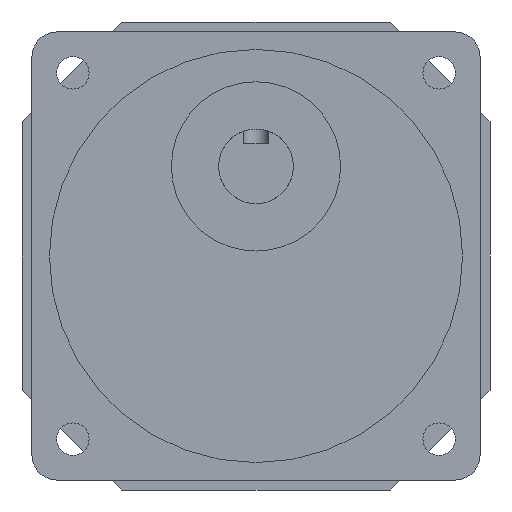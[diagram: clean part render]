
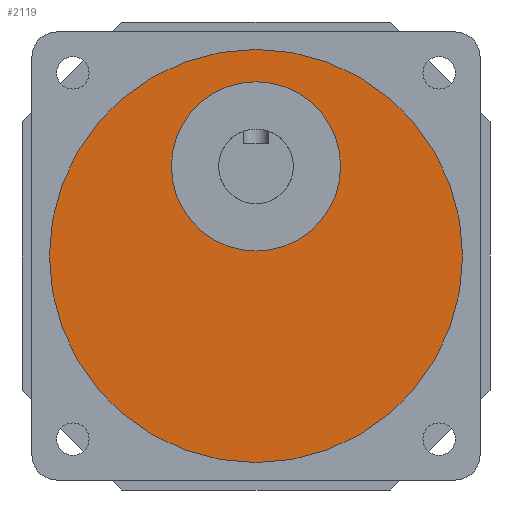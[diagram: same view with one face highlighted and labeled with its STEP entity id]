
A CAD part, front view. The second image highlights one B-rep face of the part: STEP entity #2119.
In plain terms, the highlighted planar face has unit normal (0, -1, 0).
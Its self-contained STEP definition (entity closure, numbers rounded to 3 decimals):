
#60 = VERTEX_POINT ( 'NONE', #4610 ) ;
#100 = FACE_BOUND ( 'NONE', #3109, .T. ) ;
#129 = AXIS2_PLACEMENT_3D ( 'NONE', #3287, #1547, #2909 ) ;
#157 = CIRCLE ( 'NONE', #604, 41.5 ) ;
#171 = CARTESIAN_POINT ( 'NONE',  ( 45., -63.5, 45. ) ) ;
#214 = EDGE_CURVE ( 'NONE', #60, #3712, #541, .T. ) ;
#215 = CARTESIAN_POINT ( 'NONE',  ( 45., -63.5, 63. ) ) ;
#442 = EDGE_CURVE ( 'NONE', #2925, #1273, #1895, .T. ) ;
#466 = ORIENTED_EDGE ( 'NONE', *, *, #2632, .T. ) ;
#541 = CIRCLE ( 'NONE', #2389, 41.5 ) ;
#604 = AXIS2_PLACEMENT_3D ( 'NONE', #4107, #2745, #3460 ) ;
#705 = DIRECTION ( 'NONE',  ( 0., 0., -1. ) ) ;
#897 = DIRECTION ( 'NONE',  ( 0., 0., -1. ) ) ;
#1249 = EDGE_LOOP ( 'NONE', ( #4345, #466 ) ) ;
#1273 = VERTEX_POINT ( 'NONE', #4598 ) ;
#1547 = DIRECTION ( 'NONE',  ( 0., -1., 0. ) ) ;
#1795 = CIRCLE ( 'NONE', #4267, 17. ) ;
#1895 = CIRCLE ( 'NONE', #4043, 17. ) ;
#2040 = DIRECTION ( 'NONE',  ( 0., -1., 0. ) ) ;
#2119 = ADVANCED_FACE ( 'NONE', ( #100, #4104 ), #3677, .T. ) ;
#2137 = DIRECTION ( 'NONE',  ( 0., -1., 0. ) ) ;
#2280 = DIRECTION ( 'NONE',  ( 0., 0., -1. ) ) ;
#2389 = AXIS2_PLACEMENT_3D ( 'NONE', #171, #3037, #2280 ) ;
#2469 = CARTESIAN_POINT ( 'NONE',  ( 45., -63.5, 86.5 ) ) ;
#2481 = ORIENTED_EDGE ( 'NONE', *, *, #2528, .F. ) ;
#2528 = EDGE_CURVE ( 'NONE', #1273, #2925, #1795, .T. ) ;
#2632 = EDGE_CURVE ( 'NONE', #3712, #60, #157, .T. ) ;
#2745 = DIRECTION ( 'NONE',  ( 0., -1., 0. ) ) ;
#2909 = DIRECTION ( 'NONE',  ( 0., 0., -1. ) ) ;
#2925 = VERTEX_POINT ( 'NONE', #3589 ) ;
#3037 = DIRECTION ( 'NONE',  ( 0., -1., 0. ) ) ;
#3109 = EDGE_LOOP ( 'NONE', ( #4082, #2481 ) ) ;
#3287 = CARTESIAN_POINT ( 'NONE',  ( 45., -63.5, 45. ) ) ;
#3460 = DIRECTION ( 'NONE',  ( 0., 0., -1. ) ) ;
#3589 = CARTESIAN_POINT ( 'NONE',  ( 45., -63.5, 80. ) ) ;
#3677 = PLANE ( 'NONE',  #129 ) ;
#3712 = VERTEX_POINT ( 'NONE', #2469 ) ;
#4043 = AXIS2_PLACEMENT_3D ( 'NONE', #215, #2040, #897 ) ;
#4082 = ORIENTED_EDGE ( 'NONE', *, *, #442, .F. ) ;
#4104 = FACE_OUTER_BOUND ( 'NONE', #1249, .T. ) ;
#4107 = CARTESIAN_POINT ( 'NONE',  ( 45., -63.5, 45. ) ) ;
#4146 = CARTESIAN_POINT ( 'NONE',  ( 45., -63.5, 63. ) ) ;
#4267 = AXIS2_PLACEMENT_3D ( 'NONE', #4146, #2137, #705 ) ;
#4345 = ORIENTED_EDGE ( 'NONE', *, *, #214, .T. ) ;
#4598 = CARTESIAN_POINT ( 'NONE',  ( 45., -63.5, 46. ) ) ;
#4610 = CARTESIAN_POINT ( 'NONE',  ( 45., -63.5, 3.5 ) ) ;
